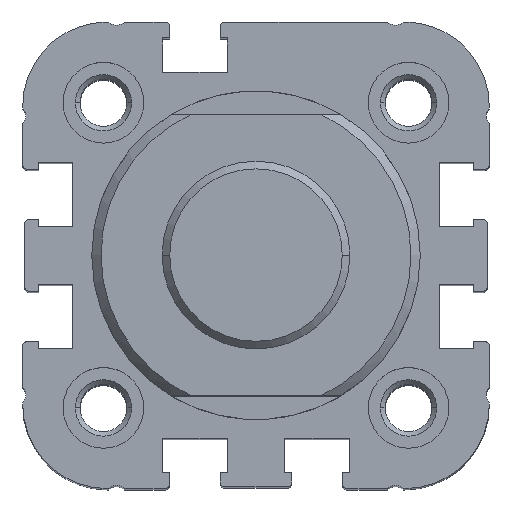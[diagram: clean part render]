
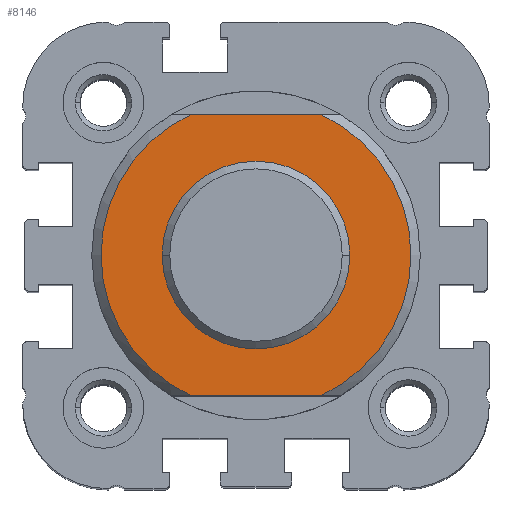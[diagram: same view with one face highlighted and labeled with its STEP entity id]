
A CAD part, top view. The second image highlights one B-rep face of the part: STEP entity #8146.
In plain terms, the highlighted planar face has unit normal (0, 0, 1).
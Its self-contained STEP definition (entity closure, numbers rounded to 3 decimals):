
#3815=CARTESIAN_POINT('',(0.,0.,12.5));
#3816=DIRECTION('',(0.,0.,1.));
#3817=DIRECTION('',(0.417,-0.909,0.));
#3818=AXIS2_PLACEMENT_3D('',#3815,#3816,#3817);
#3823=CARTESIAN_POINT('',(-6.874,-15.,12.5));
#3838=CARTESIAN_POINT('',(6.874,-15.,12.5));
#3843=CARTESIAN_POINT('',(0.,0.,12.5));
#3844=DIRECTION('',(0.,0.,1.));
#3845=DIRECTION('',(-0.417,0.909,0.));
#3846=AXIS2_PLACEMENT_3D('',#3843,#3844,#3845);
#3851=CARTESIAN_POINT('',(6.874,15.,12.5));
#3866=CARTESIAN_POINT('',(-6.874,15.,12.5));
#3871=DIRECTION('',(1.,0.,0.));
#3872=VECTOR('',#3871,13.748);
#3873=CARTESIAN_POINT('',(-6.874,15.,12.5));
#3874=LINE('',#3873,#3872);
#3878=DIRECTION('',(-1.,0.,0.));
#3879=VECTOR('',#3878,13.748);
#3880=CARTESIAN_POINT('',(6.874,-15.,12.5));
#3881=LINE('',#3880,#3879);
#3892=CARTESIAN_POINT('',(0.,0.,12.5));
#3893=DIRECTION('',(0.,0.,-1.));
#3894=DIRECTION('',(-1.,0.,0.));
#3895=AXIS2_PLACEMENT_3D('',#3892,#3893,#3894);
#3907=CARTESIAN_POINT('',(0.,0.,12.5));
#3908=DIRECTION('',(0.,0.,1.));
#3909=DIRECTION('',(-1.,0.,0.));
#3910=AXIS2_PLACEMENT_3D('',#3907,#3908,#3909);
#4675=VERTEX_POINT('',#3823);
#4676=VERTEX_POINT('',#3866);
#4677=VERTEX_POINT('',#3851);
#4678=VERTEX_POINT('',#3838);
#4679=CARTESIAN_POINT('',(-10.,0.,12.5));
#4681=VERTEX_POINT('',#4679);
#4683=CARTESIAN_POINT('',(10.,0.,12.5));
#4685=VERTEX_POINT('',#4683);
#8129=CARTESIAN_POINT('',(0.,0.,12.5));
#8130=DIRECTION('',(0.,0.,1.));
#8131=DIRECTION('',(-1.,0.,0.));
#8132=AXIS2_PLACEMENT_3D('',#8129,#8130,#8131);
#8133=PLANE('',#8132);
#8134=ORIENTED_EDGE('',*,*,#8083,.F.);
#8135=ORIENTED_EDGE('',*,*,#8108,.T.);
#8136=ORIENTED_EDGE('',*,*,#8026,.F.);
#8137=ORIENTED_EDGE('',*,*,#8053,.T.);
#8138=EDGE_LOOP('',(#8134,#8135,#8136,#8137));
#8139=FACE_OUTER_BOUND('',#8138,.F.);
#8141=ORIENTED_EDGE('',*,*,#8140,.F.);
#8143=ORIENTED_EDGE('',*,*,#8142,.T.);
#8144=EDGE_LOOP('',(#8141,#8143));
#8145=FACE_BOUND('',#8144,.F.);
#8146=ADVANCED_FACE('',(#8139,#8145),#8133,.T.);
#3819=CIRCLE('',#3818,16.5);
#3847=CIRCLE('',#3846,16.5);
#3896=CIRCLE('',#3895,10.);
#3911=CIRCLE('',#3910,10.);
#8026=EDGE_CURVE('',#4678,#4677,#3819,.T.);
#8053=EDGE_CURVE('',#4678,#4675,#3881,.T.);
#8083=EDGE_CURVE('',#4676,#4675,#3847,.T.);
#8108=EDGE_CURVE('',#4676,#4677,#3874,.T.);
#8140=EDGE_CURVE('',#4681,#4685,#3896,.T.);
#8142=EDGE_CURVE('',#4681,#4685,#3911,.T.);
